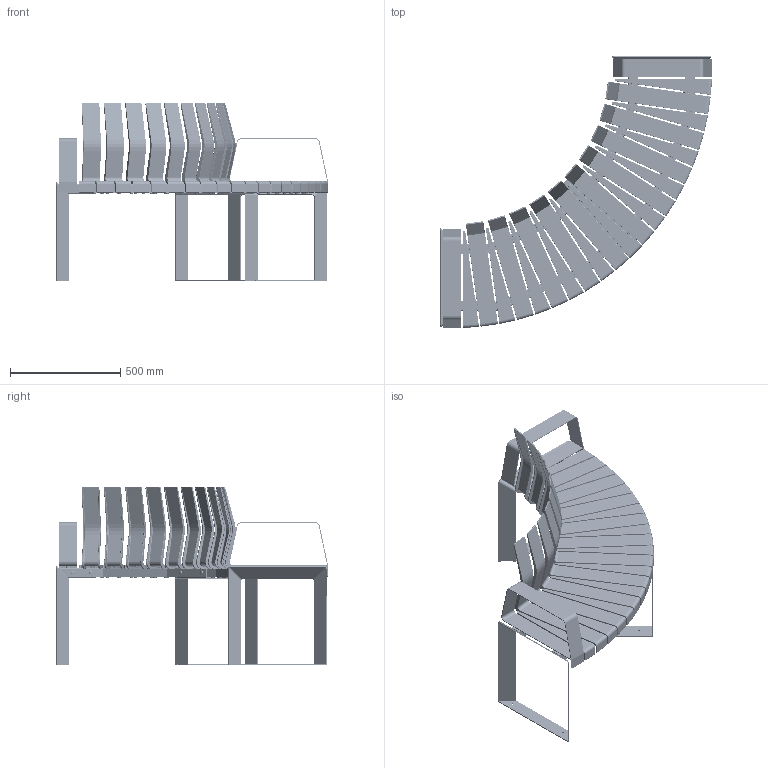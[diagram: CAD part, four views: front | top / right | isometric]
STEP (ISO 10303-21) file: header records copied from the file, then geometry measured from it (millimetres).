
FILE_DESCRIPTION(('STEP AP203'),'1');
FILE_NAME('UT80PC1251AXX + FIANCHI.stp','2026-01-19T08:27:59',(' '),(' '),'Spatial InterOp 3D',' ',' ');
FILE_SCHEMA(('CONFIG_CONTROL_DESIGN'));
Length unit declared in the file: millimetre
Products named in the file (1): UT80PC1251AXX + FIANCHI
Bounding box: 1236.58 x 1236.58 x 809.28 mm (x, y, z)
Surface area: 4541102.9 mm2 (no closed solid volume)
Topology: 0 solids, 472 shells, 4998 faces, 21570 edges, 16595 vertices
Faces by surface type: plane 2033, cylinder 1914, torus 557, bspline 431, cone 33, extrusion 30
Full cylindrical faces by diameter (mm): 6.8 x12, 8 x4, 10 x6, 13 x12, 17.5 x41, 17.8 x12, 19 x2, 25 x4
Entity records: 273313 total; most frequent: CARTESIAN_POINT 106270, DIRECTION 32973, ORIENTED_EDGE 30280, EDGE_CURVE 21317, VERTEX_POINT 16571, VECTOR 12555, LINE 12525, AXIS2_PLACEMENT_3D 10209
